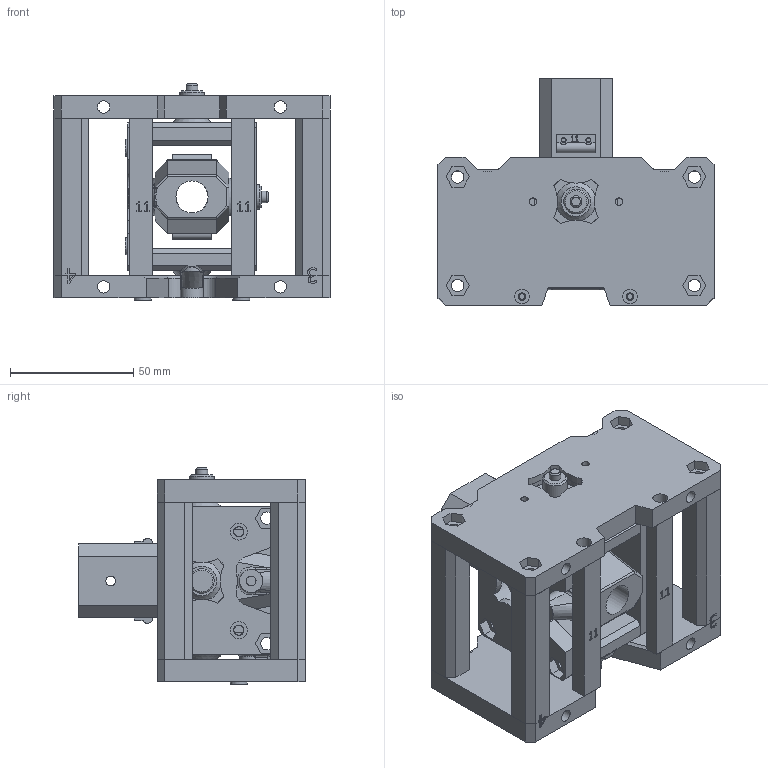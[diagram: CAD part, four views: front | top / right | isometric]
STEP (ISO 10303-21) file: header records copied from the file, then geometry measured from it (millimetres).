
FILE_DESCRIPTION(/* description */ (''),/* implementation_level */ '2;1');
FILE_NAME(/* name */ 'H:\diskF\3D механизм РУС\напольная\200 11 град +2mm 102.stp',/* time_stamp */ '2021-02-22T21:01:53+03:00',/* author */ ('busel'),/* organization */ (''),/* preprocessor_version */ 'ST-DEVELOPER v16.13',/* originating_system */ 'Autodesk Inventor 2018',/* authorisation */ '');
FILE_SCHEMA (('AUTOMOTIVE_DESIGN { 1 0 10303 214 3 1 1 }'));
Length unit declared in the file: millimetre
Products named in the file (17): 200 11 град +2mm 102; основа качалка 
Y_1; основа датчик 
Y_2; соеденитель зв_
2; соеденитель зн_
2; соеденитель пв_
2; соеденитель пн_
2; ядро качалка 
Y_2; ядро датчик 
Y_2; ядро датчик 
X_2; ядро качалка 
X_2; шток_2; ограничитель1
 Х крен; ограничитель2
 Х крен; ограничитель3
 Y тангаж; ограничитель4
 Y тангаж; шайба 4-8-1_1
Assembly tree (19 placements, depth 2):
  200 11 град +2mm 102
    основа качалка 
Y_1
    основа датчик 
Y_2
    соеденитель зв_
2
    соеденитель зн_
2
    соеденитель пв_
2
    соеденитель пн_
2
    ядро качалка 
Y_2
    ядро датчик 
Y_2
    ядро датчик 
X_2
    ядро качалка 
X_2
    шток_2
    ограничитель1
 Х крен
    ограничитель2
 Х крен
    шайба 4-8-1_1  x4
    ограничитель3
 Y тангаж
    ограничитель4
 Y тангаж
Bounding box: 112 x 92 x 88 mm (x, y, z)
Volume: 265683.8 mm3; surface area: 104798.4 mm2
Topology: 19 solids, 19 shells, 758 faces, 1988 edges, 1296 vertices
Faces by surface type: plane 443, cylinder 149, bspline 111, cone 53, torus 2
Full cylindrical faces by diameter (mm): 2 x4, 3 x8, 4 x8, 4.2 x4, 4.8 x2, 5 x28, 6 x8, 6.8 x4, 7.2 x5, 8 x1, 9 x8, 9.4 x2, 10 x4, 13 x1, 21 x1, 22 x4
Entity records: 24984 total; most frequent: CARTESIAN_POINT 6260, ORIENTED_EDGE 3644, DIRECTION 3325, EDGE_CURVE 1822, VERTEX_POINT 1253, LINE 1213, VECTOR 1213, AXIS2_PLACEMENT_3D 1056
